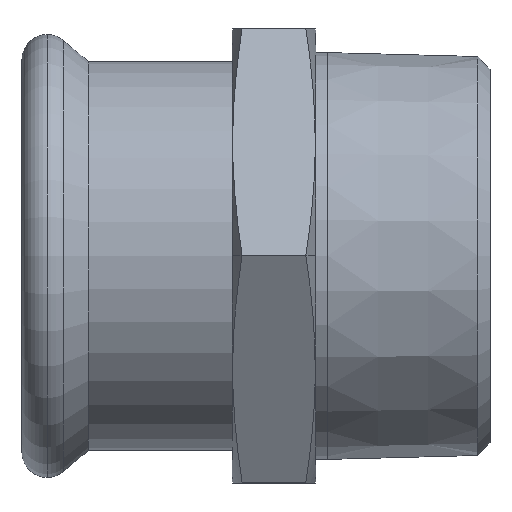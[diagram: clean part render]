
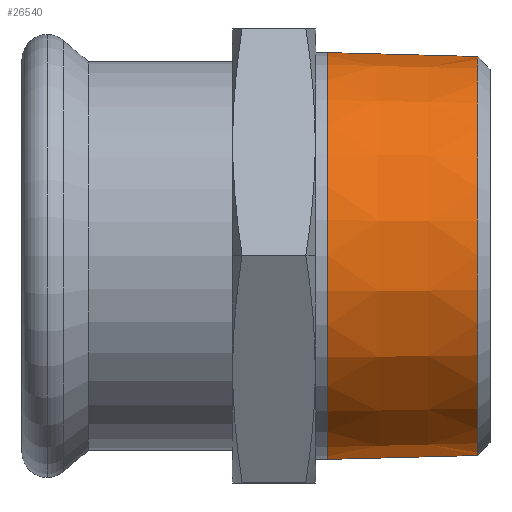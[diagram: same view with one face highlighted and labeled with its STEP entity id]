
A CAD part, top view. The second image highlights one B-rep face of the part: STEP entity #26540.
In plain terms, the highlighted conical face has half-angle 1.5 degrees and reference radius 29.3 mm.
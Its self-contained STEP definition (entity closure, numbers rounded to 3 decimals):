
#10=CARTESIAN_POINT('',(-51.571,-716.257,
0.));
#20=DIRECTION('',(-1.,0.,0.));
#30=DIRECTION('',(0.,-1.,0.));
#40=AXIS2_PLACEMENT_3D('',#10,#20,#30);
#50=CONICAL_SURFACE('',#40,29.3,0.026);
#60=CARTESIAN_POINT('',(-51.571,-686.957,
0.));
#70=DIRECTION('',(-1.,0.026,
0.));
#80=VECTOR('',#70,1.);
#90=LINE('',#60,#80);
#100=CARTESIAN_POINT('',(-55.67,-686.849,
0.));
#110=VERTEX_POINT('',#100);
#120=CARTESIAN_POINT('',(-77.771,-686.271,
0.));
#130=VERTEX_POINT('',#120);
#140=EDGE_CURVE('',#110,#130,#90,.T.);
#160=CARTESIAN_POINT('',(-77.771,-716.257,
0.));
#170=DIRECTION('',(-1.,0.,0.));
#180=DIRECTION('',(0.,-1.,0.));
#190=AXIS2_PLACEMENT_3D('',#160,#170,#180);
#200=CIRCLE('',#190,29.986);
#210=CARTESIAN_POINT('',(-77.771,-746.243,
0.));
#220=VERTEX_POINT('',#210);
#250=CARTESIAN_POINT('',(-51.571,-745.557,
0.));
#260=DIRECTION('',(-1.,-0.026,
0.));
#270=VECTOR('',#260,1.);
#280=LINE('',#250,#270);
#290=CARTESIAN_POINT('',(-55.67,-745.664,
0.));
#300=VERTEX_POINT('',#290);
#310=EDGE_CURVE('',#300,#220,#280,.T.);
#330=CARTESIAN_POINT('',(-55.67,-716.257,
0.));
#340=DIRECTION('',(-1.,0.,0.));
#350=DIRECTION('',(0.,-1.,0.));
#360=AXIS2_PLACEMENT_3D('',#330,#340,#350);
#370=CIRCLE('',#360,29.407);
#990=EDGE_CURVE('',#220,#130,#200,.T.);
#26470=EDGE_CURVE('',#300,#110,#370,.T.);
#26480=ORIENTED_EDGE('',*,*,#26470,.T.);
#26490=ORIENTED_EDGE('',*,*,#310,.F.);
#26500=ORIENTED_EDGE('',*,*,#990,.F.);
#26510=ORIENTED_EDGE('',*,*,#140,.T.);
#26520=EDGE_LOOP('',(#26510,#26500,#26490,#26480));
#26530=FACE_OUTER_BOUND('',#26520,.T.);
#26540=ADVANCED_FACE('',(#26530),#50,.T.);
